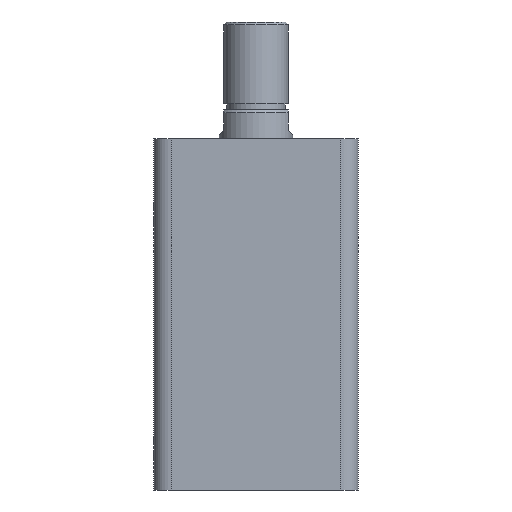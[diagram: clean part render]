
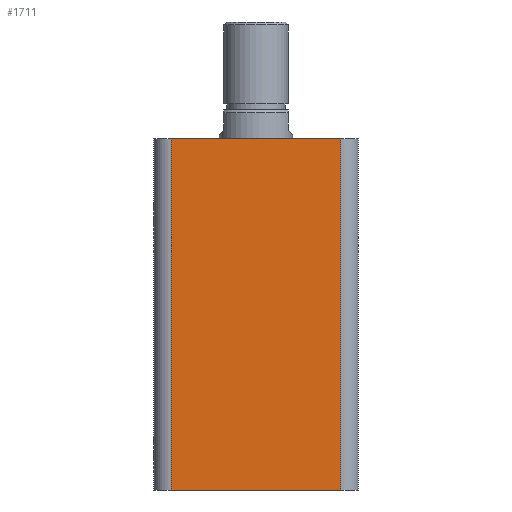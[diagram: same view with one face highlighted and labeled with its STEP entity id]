
A CAD part, front view. The second image highlights one B-rep face of the part: STEP entity #1711.
In plain terms, the highlighted planar face has unit normal (0, -1, 0).
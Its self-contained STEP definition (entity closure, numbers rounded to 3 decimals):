
#91 = ORIENTED_EDGE ( 'NONE', *, *, #970, .T. ) ;
#132 = VERTEX_POINT ( 'NONE', #1782 ) ;
#175 = ORIENTED_EDGE ( 'NONE', *, *, #969, .T. ) ;
#354 = EDGE_LOOP ( 'NONE', ( #440, #426, #175, #91 ) ) ;
#380 = VERTEX_POINT ( 'NONE', #2231 ) ;
#382 = VERTEX_POINT ( 'NONE', #2264 ) ;
#413 = VERTEX_POINT ( 'NONE', #2206 ) ;
#426 = ORIENTED_EDGE ( 'NONE', *, *, #968, .T. ) ;
#440 = ORIENTED_EDGE ( 'NONE', *, *, #967, .F. ) ;
#761 = DIRECTION ( 'NONE',  ( 0., 0., 1. ) ) ;
#763 = DIRECTION ( 'NONE',  ( 0., 1., 0. ) ) ;
#766 = PLANE ( 'NONE',  #910 ) ;
#768 = CARTESIAN_POINT ( 'NONE',  ( -35., -35., 120. ) ) ;
#910 = AXIS2_PLACEMENT_3D ( 'NONE', #768, #763, #761 ) ;
#967 = EDGE_CURVE ( 'NONE', #132, #380, #1465, .T. ) ;
#968 = EDGE_CURVE ( 'NONE', #132, #413, #1468, .T. ) ;
#969 = EDGE_CURVE ( 'NONE', #413, #382, #1460, .T. ) ;
#970 = EDGE_CURVE ( 'NONE', #382, #380, #1455, .T. ) ;
#1452 = VECTOR ( 'NONE', #2241, 1000. ) ;
#1454 = VECTOR ( 'NONE', #2244, 1000. ) ;
#1455 = LINE ( 'NONE', #2243, #1452 ) ;
#1457 = VECTOR ( 'NONE', #2246, 1000. ) ;
#1459 = VECTOR ( 'NONE', #2250, 1000. ) ;
#1460 = LINE ( 'NONE', #2253, #1454 ) ;
#1465 = LINE ( 'NONE', #2254, #1459 ) ;
#1468 = LINE ( 'NONE', #2249, #1457 ) ;
#1711 = ADVANCED_FACE ( 'NONE', ( #2404 ), #766, .F. ) ;
#1782 = CARTESIAN_POINT ( 'NONE',  ( -29., -35., 120. ) ) ;
#2206 = CARTESIAN_POINT ( 'NONE',  ( -29., -35., 0. ) ) ;
#2231 = CARTESIAN_POINT ( 'NONE',  ( 29., -35., 120. ) ) ;
#2241 = DIRECTION ( 'NONE',  ( 0., 0., 1. ) ) ;
#2243 = CARTESIAN_POINT ( 'NONE',  ( 29., -35., 120. ) ) ;
#2244 = DIRECTION ( 'NONE',  ( 1., 0., 0. ) ) ;
#2246 = DIRECTION ( 'NONE',  ( 0., 0., -1. ) ) ;
#2249 = CARTESIAN_POINT ( 'NONE',  ( -29., -35., 120. ) ) ;
#2250 = DIRECTION ( 'NONE',  ( 1., 0., 0. ) ) ;
#2253 = CARTESIAN_POINT ( 'NONE',  ( -35., -35., 0. ) ) ;
#2254 = CARTESIAN_POINT ( 'NONE',  ( -35., -35., 120. ) ) ;
#2264 = CARTESIAN_POINT ( 'NONE',  ( 29., -35., 0. ) ) ;
#2404 = FACE_OUTER_BOUND ( 'NONE', #354, .T. ) ;
